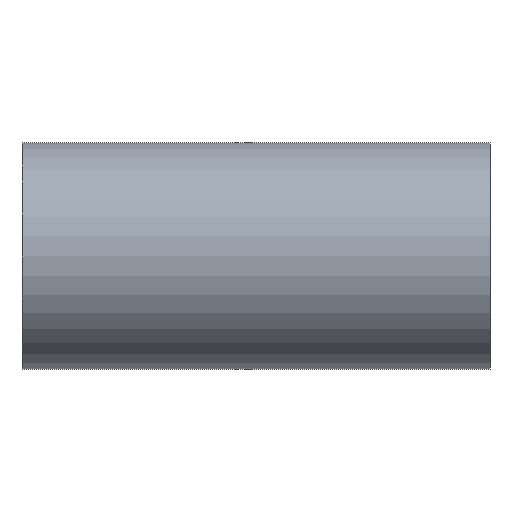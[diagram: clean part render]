
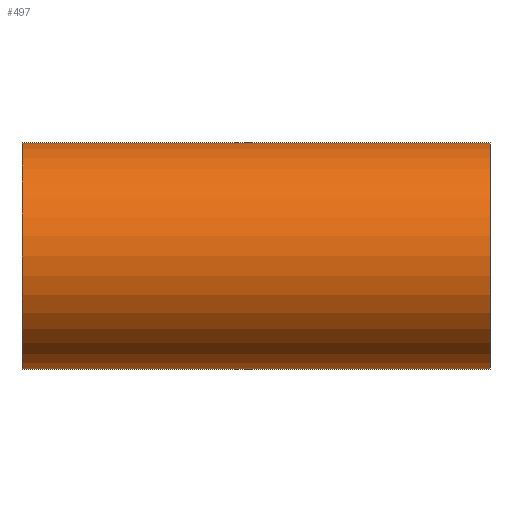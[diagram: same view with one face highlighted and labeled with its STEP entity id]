
A CAD part, front view. The second image highlights one B-rep face of the part: STEP entity #497.
In plain terms, the highlighted cylindrical face has radius 50.8 mm (diameter 101.6 mm), a partial arc.
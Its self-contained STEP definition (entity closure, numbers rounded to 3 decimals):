
#4 = DIRECTION ( 'NONE',  ( 1., 0., 0. ) ) ;
#6 = EDGE_CURVE ( 'NONE', #562, #194, #337, .T. ) ;
#12 = EDGE_LOOP ( 'NONE', ( #317, #279, #571, #474 ) ) ;
#13 = CARTESIAN_POINT ( 'NONE',  ( 104.8, 0., 0. ) ) ;
#15 = DIRECTION ( 'NONE',  ( -1., 0., 0. ) ) ;
#18 = DIRECTION ( 'NONE',  ( 0., 0., -1. ) ) ;
#28 = EDGE_CURVE ( 'NONE', #308, #194, #214, .T. ) ;
#36 = CARTESIAN_POINT ( 'NONE',  ( -104.8, 0., 0. ) ) ;
#57 = CARTESIAN_POINT ( 'NONE',  ( 104.8, 0., 50.8 ) ) ;
#91 = VECTOR ( 'NONE', #350, 1000. ) ;
#102 = LINE ( 'NONE', #593, #331 ) ;
#110 = EDGE_CURVE ( 'NONE', #208, #308, #102, .T. ) ;
#121 = CIRCLE ( 'NONE', #603, 50.8 ) ;
#125 = DIRECTION ( 'NONE',  ( 0., 0., -1. ) ) ;
#189 = CARTESIAN_POINT ( 'NONE',  ( 104.8, 0., -50.8 ) ) ;
#194 = VERTEX_POINT ( 'NONE', #57 ) ;
#202 = CARTESIAN_POINT ( 'NONE',  ( -104.8, 0., 0. ) ) ;
#208 = VERTEX_POINT ( 'NONE', #348 ) ;
#214 = CIRCLE ( 'NONE', #441, 50.8 ) ;
#217 = EDGE_CURVE ( 'NONE', #562, #208, #121, .T. ) ;
#267 = DIRECTION ( 'NONE',  ( 1., 0., 0. ) ) ;
#279 = ORIENTED_EDGE ( 'NONE', *, *, #217, .T. ) ;
#308 = VERTEX_POINT ( 'NONE', #189 ) ;
#317 = ORIENTED_EDGE ( 'NONE', *, *, #6, .F. ) ;
#331 = VECTOR ( 'NONE', #4, 1000. ) ;
#336 = DIRECTION ( 'NONE',  ( 0., 0., -1. ) ) ;
#337 = LINE ( 'NONE', #509, #91 ) ;
#348 = CARTESIAN_POINT ( 'NONE',  ( -104.8, 0., -50.8 ) ) ;
#350 = DIRECTION ( 'NONE',  ( 1., 0., 0. ) ) ;
#377 = AXIS2_PLACEMENT_3D ( 'NONE', #202, #267, #125 ) ;
#424 = DIRECTION ( 'NONE',  ( 1., 0., 0. ) ) ;
#441 = AXIS2_PLACEMENT_3D ( 'NONE', #13, #15, #18 ) ;
#467 = CARTESIAN_POINT ( 'NONE',  ( -104.8, 0., 50.8 ) ) ;
#474 = ORIENTED_EDGE ( 'NONE', *, *, #28, .T. ) ;
#497 = ADVANCED_FACE ( 'NONE', ( #517 ), #630, .T. ) ;
#509 = CARTESIAN_POINT ( 'NONE',  ( -104.8, 0., 50.8 ) ) ;
#517 = FACE_OUTER_BOUND ( 'NONE', #12, .T. ) ;
#562 = VERTEX_POINT ( 'NONE', #467 ) ;
#571 = ORIENTED_EDGE ( 'NONE', *, *, #110, .T. ) ;
#593 = CARTESIAN_POINT ( 'NONE',  ( -104.8, 0., -50.8 ) ) ;
#603 = AXIS2_PLACEMENT_3D ( 'NONE', #36, #424, #336 ) ;
#630 = CYLINDRICAL_SURFACE ( 'NONE', #377, 50.8 ) ;
